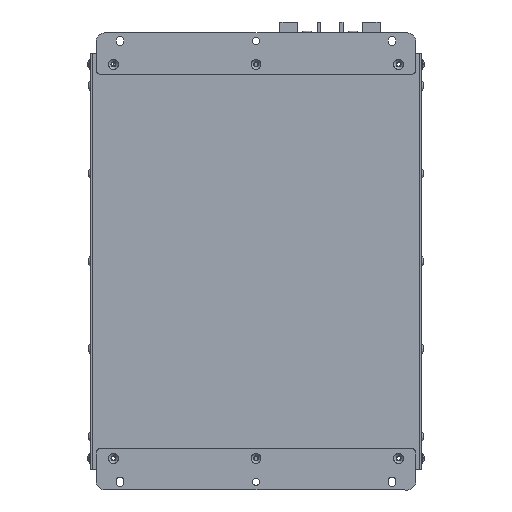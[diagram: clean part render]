
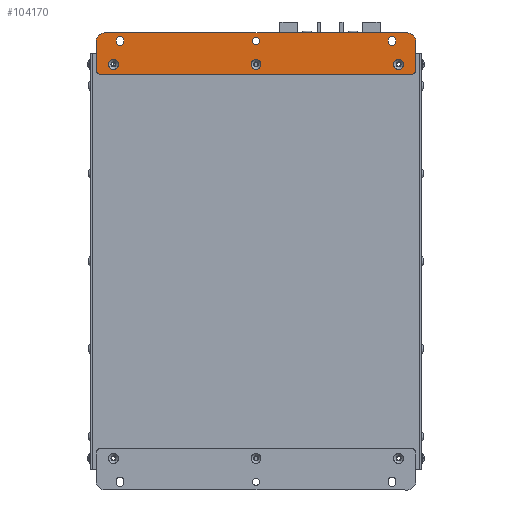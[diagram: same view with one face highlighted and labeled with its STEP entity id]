
A CAD part, front view. The second image highlights one B-rep face of the part: STEP entity #104170.
In plain terms, the highlighted planar face has unit normal (0, -1, 0) as drawn and (0, 1, 0) by its records, which use the part's own axes.
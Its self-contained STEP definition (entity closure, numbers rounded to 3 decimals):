
#11318=FACE_BOUND('',#20576,.T.);
#11319=FACE_BOUND('',#20577,.T.);
#11320=FACE_BOUND('',#20578,.T.);
#11321=FACE_BOUND('',#20579,.T.);
#11322=FACE_BOUND('',#20580,.T.);
#11323=FACE_BOUND('',#20581,.T.);
#12027=PLANE('',#110169);
#14875=FACE_OUTER_BOUND('',#20575,.T.);
#20575=EDGE_LOOP('',(#73277,#73278,#73279,#73280,#73281,#73282,#73283,#73284));
#20576=EDGE_LOOP('',(#73285));
#20577=EDGE_LOOP('',(#73286));
#20578=EDGE_LOOP('',(#73287,#73288,#73289,#73290));
#20579=EDGE_LOOP('',(#73291,#73292,#73293,#73294));
#20580=EDGE_LOOP('',(#73295));
#20581=EDGE_LOOP('',(#73296));
#26984=LINE('',#141322,#35941);
#26985=LINE('',#141326,#35942);
#26986=LINE('',#141330,#35943);
#26987=LINE('',#141333,#35944);
#26988=LINE('',#141342,#35945);
#26989=LINE('',#141345,#35946);
#26990=LINE('',#141350,#35947);
#26991=LINE('',#141353,#35948);
#35941=VECTOR('',#117575,10.);
#35942=VECTOR('',#117578,10.);
#35943=VECTOR('',#117581,10.);
#35944=VECTOR('',#117584,10.);
#35945=VECTOR('',#117591,10.);
#35946=VECTOR('',#117594,10.);
#35947=VECTOR('',#117597,10.);
#35948=VECTOR('',#117600,10.);
#44897=CIRCLE('',#110167,4.55);
#44899=CIRCLE('',#110170,8.);
#44900=CIRCLE('',#110171,8.);
#44901=CIRCLE('',#110172,4.);
#44902=CIRCLE('',#110173,4.);
#44903=CIRCLE('',#110174,4.55);
#44904=CIRCLE('',#110175,3.3);
#44905=CIRCLE('',#110176,3.3);
#44906=CIRCLE('',#110177,3.3);
#44907=CIRCLE('',#110178,3.3);
#44908=CIRCLE('',#110179,3.3);
#44909=CIRCLE('',#110180,4.55);
#47659=VERTEX_POINT('',#141312);
#47661=VERTEX_POINT('',#141318);
#47662=VERTEX_POINT('',#141319);
#47663=VERTEX_POINT('',#141321);
#47664=VERTEX_POINT('',#141323);
#47665=VERTEX_POINT('',#141325);
#47666=VERTEX_POINT('',#141327);
#47667=VERTEX_POINT('',#141329);
#47668=VERTEX_POINT('',#141331);
#47669=VERTEX_POINT('',#141334);
#47670=VERTEX_POINT('',#141336);
#47671=VERTEX_POINT('',#141338);
#47672=VERTEX_POINT('',#141339);
#47673=VERTEX_POINT('',#141341);
#47674=VERTEX_POINT('',#141343);
#47675=VERTEX_POINT('',#141346);
#47676=VERTEX_POINT('',#141347);
#47677=VERTEX_POINT('',#141349);
#47678=VERTEX_POINT('',#141351);
#47679=VERTEX_POINT('',#141354);
#57840=EDGE_CURVE('',#47659,#47659,#44897,.T.);
#57843=EDGE_CURVE('',#47661,#47662,#44899,.T.);
#57844=EDGE_CURVE('',#47662,#47663,#26984,.T.);
#57845=EDGE_CURVE('',#47663,#47664,#44900,.T.);
#57846=EDGE_CURVE('',#47664,#47665,#26985,.T.);
#57847=EDGE_CURVE('',#47665,#47666,#44901,.T.);
#57848=EDGE_CURVE('',#47666,#47667,#26986,.T.);
#57849=EDGE_CURVE('',#47667,#47668,#44902,.T.);
#57850=EDGE_CURVE('',#47668,#47661,#26987,.T.);
#57851=EDGE_CURVE('',#47669,#47669,#44903,.T.);
#57852=EDGE_CURVE('',#47670,#47670,#44904,.T.);
#57853=EDGE_CURVE('',#47671,#47672,#44905,.T.);
#57854=EDGE_CURVE('',#47672,#47673,#26988,.T.);
#57855=EDGE_CURVE('',#47673,#47674,#44906,.T.);
#57856=EDGE_CURVE('',#47674,#47671,#26989,.T.);
#57857=EDGE_CURVE('',#47675,#47676,#44907,.T.);
#57858=EDGE_CURVE('',#47676,#47677,#26990,.T.);
#57859=EDGE_CURVE('',#47677,#47678,#44908,.T.);
#57860=EDGE_CURVE('',#47678,#47675,#26991,.T.);
#57861=EDGE_CURVE('',#47679,#47679,#44909,.T.);
#73277=ORIENTED_EDGE('',*,*,#57843,.T.);
#73278=ORIENTED_EDGE('',*,*,#57844,.T.);
#73279=ORIENTED_EDGE('',*,*,#57845,.T.);
#73280=ORIENTED_EDGE('',*,*,#57846,.T.);
#73281=ORIENTED_EDGE('',*,*,#57847,.T.);
#73282=ORIENTED_EDGE('',*,*,#57848,.T.);
#73283=ORIENTED_EDGE('',*,*,#57849,.T.);
#73284=ORIENTED_EDGE('',*,*,#57850,.T.);
#73285=ORIENTED_EDGE('',*,*,#57851,.F.);
#73286=ORIENTED_EDGE('',*,*,#57852,.T.);
#73287=ORIENTED_EDGE('',*,*,#57853,.T.);
#73288=ORIENTED_EDGE('',*,*,#57854,.T.);
#73289=ORIENTED_EDGE('',*,*,#57855,.T.);
#73290=ORIENTED_EDGE('',*,*,#57856,.T.);
#73291=ORIENTED_EDGE('',*,*,#57857,.T.);
#73292=ORIENTED_EDGE('',*,*,#57858,.T.);
#73293=ORIENTED_EDGE('',*,*,#57859,.T.);
#73294=ORIENTED_EDGE('',*,*,#57860,.T.);
#73295=ORIENTED_EDGE('',*,*,#57861,.F.);
#73296=ORIENTED_EDGE('',*,*,#57840,.F.);
#104170=ADVANCED_FACE('',(#14875,#11318,#11319,#11320,#11321,#11322,#11323),
#12027,.T.);
#110167=AXIS2_PLACEMENT_3D('',#141313,#117566,#117567);
#110169=AXIS2_PLACEMENT_3D('',#141317,#117571,#117572);
#110170=AXIS2_PLACEMENT_3D('',#141320,#117573,#117574);
#110171=AXIS2_PLACEMENT_3D('',#141324,#117576,#117577);
#110172=AXIS2_PLACEMENT_3D('',#141328,#117579,#117580);
#110173=AXIS2_PLACEMENT_3D('',#141332,#117582,#117583);
#110174=AXIS2_PLACEMENT_3D('',#141335,#117585,#117586);
#110175=AXIS2_PLACEMENT_3D('',#141337,#117587,#117588);
#110176=AXIS2_PLACEMENT_3D('',#141340,#117589,#117590);
#110177=AXIS2_PLACEMENT_3D('',#141344,#117592,#117593);
#110178=AXIS2_PLACEMENT_3D('',#141348,#117595,#117596);
#110179=AXIS2_PLACEMENT_3D('',#141352,#117598,#117599);
#110180=AXIS2_PLACEMENT_3D('',#141355,#117601,#117602);
#117566=DIRECTION('center_axis',(0.,1.,0.));
#117567=DIRECTION('ref_axis',(1.,0.,0.));
#117571=DIRECTION('center_axis',(0.,1.,0.));
#117572=DIRECTION('ref_axis',(0.,0.,1.));
#117573=DIRECTION('center_axis',(0.,1.,0.));
#117574=DIRECTION('ref_axis',(-1.,0.,0.));
#117575=DIRECTION('',(1.,0.,0.));
#117576=DIRECTION('center_axis',(0.,1.,0.));
#117577=DIRECTION('ref_axis',(0.,0.,1.));
#117578=DIRECTION('',(0.,0.,-1.));
#117579=DIRECTION('center_axis',(0.,1.,0.));
#117580=DIRECTION('ref_axis',(1.,0.,0.));
#117581=DIRECTION('',(-1.,0.,0.));
#117582=DIRECTION('center_axis',(0.,1.,0.));
#117583=DIRECTION('ref_axis',(0.,0.,-1.));
#117584=DIRECTION('',(0.,0.,1.));
#117585=DIRECTION('center_axis',(0.,1.,0.));
#117586=DIRECTION('ref_axis',(1.,0.,0.));
#117587=DIRECTION('center_axis',(0.,-1.,0.));
#117588=DIRECTION('ref_axis',(1.,0.,0.));
#117589=DIRECTION('center_axis',(0.,-1.,0.));
#117590=DIRECTION('ref_axis',(-1.,0.,0.));
#117591=DIRECTION('',(0.,0.,1.));
#117592=DIRECTION('center_axis',(0.,-1.,0.));
#117593=DIRECTION('ref_axis',(1.,0.,0.));
#117594=DIRECTION('',(0.,0.,-1.));
#117595=DIRECTION('center_axis',(0.,-1.,0.));
#117596=DIRECTION('ref_axis',(-1.,0.,0.));
#117597=DIRECTION('',(0.,0.,1.));
#117598=DIRECTION('center_axis',(0.,-1.,0.));
#117599=DIRECTION('ref_axis',(1.,0.,0.));
#117600=DIRECTION('',(0.,0.,-1.));
#117601=DIRECTION('center_axis',(0.,1.,0.));
#117602=DIRECTION('ref_axis',(1.,0.,0.));
#141312=CARTESIAN_POINT('',(371.539,3.,-243.329));
#141313=CARTESIAN_POINT('Origin',(376.089,3.,-243.329));
#141317=CARTESIAN_POINT('Origin',(245.089,3.,-233.329));
#141318=CARTESIAN_POINT('',(98.089,3.,-222.329));
#141319=CARTESIAN_POINT('',(106.089,3.,-214.329));
#141320=CARTESIAN_POINT('Origin',(106.089,3.,-222.329));
#141321=CARTESIAN_POINT('',(384.089,3.,-214.329));
#141322=CARTESIAN_POINT('',(106.089,3.,-214.329));
#141323=CARTESIAN_POINT('',(392.089,3.,-222.329));
#141324=CARTESIAN_POINT('Origin',(384.089,3.,-222.329));
#141325=CARTESIAN_POINT('',(392.089,3.,-248.329));
#141326=CARTESIAN_POINT('',(392.089,3.,-222.329));
#141327=CARTESIAN_POINT('',(388.089,3.,-252.329));
#141328=CARTESIAN_POINT('Origin',(388.089,3.,-248.329));
#141329=CARTESIAN_POINT('',(102.089,3.,-252.329));
#141330=CARTESIAN_POINT('',(388.089,3.,-252.329));
#141331=CARTESIAN_POINT('',(98.089,3.,-248.329));
#141332=CARTESIAN_POINT('Origin',(102.089,3.,-248.329));
#141333=CARTESIAN_POINT('',(98.089,3.,-248.329));
#141334=CARTESIAN_POINT('',(240.539,3.,-243.329));
#141335=CARTESIAN_POINT('Origin',(245.089,3.,-243.329));
#141336=CARTESIAN_POINT('',(241.789,3.,-221.829));
#141337=CARTESIAN_POINT('Origin',(245.089,3.,-221.829));
#141338=CARTESIAN_POINT('',(116.789,3.,-222.829));
#141339=CARTESIAN_POINT('',(123.389,3.,-222.829));
#141340=CARTESIAN_POINT('Origin',(120.089,3.,-222.829));
#141341=CARTESIAN_POINT('',(123.389,3.,-220.829));
#141342=CARTESIAN_POINT('',(123.389,3.,-227.079));
#141343=CARTESIAN_POINT('',(116.789,3.,-220.829));
#141344=CARTESIAN_POINT('Origin',(120.089,3.,-220.829));
#141345=CARTESIAN_POINT('',(116.789,3.,-228.079));
#141346=CARTESIAN_POINT('',(366.789,3.,-222.829));
#141347=CARTESIAN_POINT('',(373.389,3.,-222.829));
#141348=CARTESIAN_POINT('Origin',(370.089,3.,-222.829));
#141349=CARTESIAN_POINT('',(373.389,3.,-220.829));
#141350=CARTESIAN_POINT('',(373.389,3.,-227.079));
#141351=CARTESIAN_POINT('',(366.789,3.,-220.829));
#141352=CARTESIAN_POINT('Origin',(370.089,3.,-220.829));
#141353=CARTESIAN_POINT('',(366.789,3.,-228.079));
#141354=CARTESIAN_POINT('',(109.539,3.,-243.329));
#141355=CARTESIAN_POINT('Origin',(114.089,3.,-243.329));
